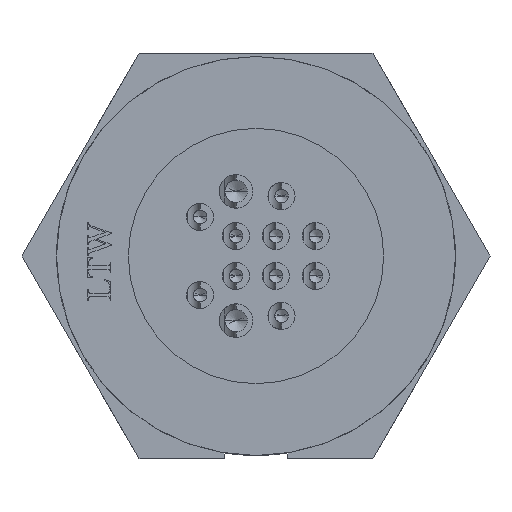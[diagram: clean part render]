
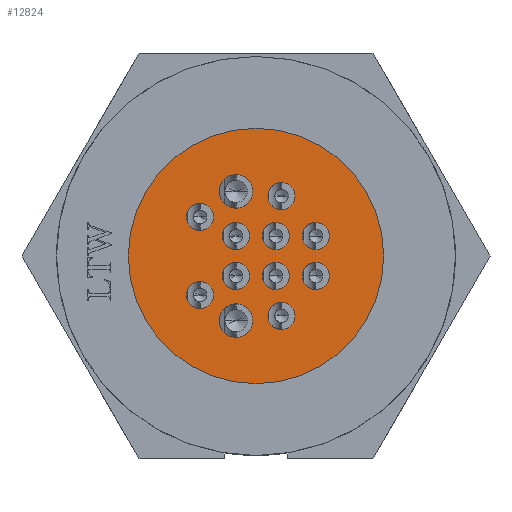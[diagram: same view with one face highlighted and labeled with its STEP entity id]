
A CAD part, left-side view. The second image highlights one B-rep face of the part: STEP entity #12824.
In plain terms, the highlighted planar face has unit normal (-1, 0, 0).
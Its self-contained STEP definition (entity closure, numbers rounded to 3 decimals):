
#2467=CARTESIAN_POINT('',(0.,0.,0.));
#2468=DIRECTION('',(1.,0.,0.));
#2469=DIRECTION('',(0.,-1.,0.));
#2470=AXIS2_PLACEMENT_3D('',#2467,#2468,#2469);
#2472=CARTESIAN_POINT('',(0.,0.,0.));
#2473=DIRECTION('',(1.,0.,0.));
#2474=DIRECTION('',(0.,1.,0.));
#2475=AXIS2_PLACEMENT_3D('',#2472,#2473,#2474);
#2477=CARTESIAN_POINT('',(0.,1.25,4.05));
#2478=DIRECTION('',(-1.,0.,0.));
#2479=DIRECTION('',(0.,1.,0.));
#2480=AXIS2_PLACEMENT_3D('',#2477,#2478,#2479);
#2482=CARTESIAN_POINT('',(0.,1.25,4.05));
#2483=DIRECTION('',(-1.,0.,0.));
#2484=DIRECTION('',(0.,-1.,0.));
#2485=AXIS2_PLACEMENT_3D('',#2482,#2483,#2484);
#2487=CARTESIAN_POINT('',(0.,1.25,-4.05));
#2488=DIRECTION('',(-1.,0.,0.));
#2489=DIRECTION('',(0.,1.,0.));
#2490=AXIS2_PLACEMENT_3D('',#2487,#2488,#2489);
#2492=CARTESIAN_POINT('',(0.,1.25,-4.05));
#2493=DIRECTION('',(-1.,0.,0.));
#2494=DIRECTION('',(0.,-1.,0.));
#2495=AXIS2_PLACEMENT_3D('',#2492,#2493,#2494);
#2497=CARTESIAN_POINT('',(0.,3.5,2.45));
#2498=DIRECTION('',(-1.,0.,0.));
#2499=DIRECTION('',(0.,1.,0.));
#2500=AXIS2_PLACEMENT_3D('',#2497,#2498,#2499);
#2502=CARTESIAN_POINT('',(0.,3.5,2.45));
#2503=DIRECTION('',(-1.,0.,0.));
#2504=DIRECTION('',(0.,-1.,0.));
#2505=AXIS2_PLACEMENT_3D('',#2502,#2503,#2504);
#2507=CARTESIAN_POINT('',(0.,3.5,-2.45));
#2508=DIRECTION('',(-1.,0.,0.));
#2509=DIRECTION('',(0.,1.,0.));
#2510=AXIS2_PLACEMENT_3D('',#2507,#2508,#2509);
#2512=CARTESIAN_POINT('',(0.,3.5,-2.45));
#2513=DIRECTION('',(-1.,0.,0.));
#2514=DIRECTION('',(0.,-1.,0.));
#2515=AXIS2_PLACEMENT_3D('',#2512,#2513,#2514);
#2517=CARTESIAN_POINT('',(0.,1.25,1.25));
#2518=DIRECTION('',(-1.,0.,0.));
#2519=DIRECTION('',(0.,1.,0.));
#2520=AXIS2_PLACEMENT_3D('',#2517,#2518,#2519);
#2522=CARTESIAN_POINT('',(0.,1.25,1.25));
#2523=DIRECTION('',(-1.,0.,0.));
#2524=DIRECTION('',(0.,-1.,0.));
#2525=AXIS2_PLACEMENT_3D('',#2522,#2523,#2524);
#2527=CARTESIAN_POINT('',(0.,1.25,-1.25));
#2528=DIRECTION('',(-1.,0.,0.));
#2529=DIRECTION('',(0.,1.,0.));
#2530=AXIS2_PLACEMENT_3D('',#2527,#2528,#2529);
#2532=CARTESIAN_POINT('',(0.,1.25,-1.25));
#2533=DIRECTION('',(-1.,0.,0.));
#2534=DIRECTION('',(0.,-1.,0.));
#2535=AXIS2_PLACEMENT_3D('',#2532,#2533,#2534);
#2537=CARTESIAN_POINT('',(0.,-1.25,1.25));
#2538=DIRECTION('',(-1.,0.,0.));
#2539=DIRECTION('',(0.,1.,0.));
#2540=AXIS2_PLACEMENT_3D('',#2537,#2538,#2539);
#2542=CARTESIAN_POINT('',(0.,-1.25,1.25));
#2543=DIRECTION('',(-1.,0.,0.));
#2544=DIRECTION('',(0.,-1.,0.));
#2545=AXIS2_PLACEMENT_3D('',#2542,#2543,#2544);
#2547=CARTESIAN_POINT('',(0.,-1.25,-1.25));
#2548=DIRECTION('',(-1.,0.,0.));
#2549=DIRECTION('',(0.,1.,0.));
#2550=AXIS2_PLACEMENT_3D('',#2547,#2548,#2549);
#2552=CARTESIAN_POINT('',(0.,-1.25,-1.25));
#2553=DIRECTION('',(-1.,0.,0.));
#2554=DIRECTION('',(0.,-1.,0.));
#2555=AXIS2_PLACEMENT_3D('',#2552,#2553,#2554);
#2557=CARTESIAN_POINT('',(0.,-3.75,1.25));
#2558=DIRECTION('',(-1.,0.,0.));
#2559=DIRECTION('',(0.,1.,0.));
#2560=AXIS2_PLACEMENT_3D('',#2557,#2558,#2559);
#2562=CARTESIAN_POINT('',(0.,-3.75,1.25));
#2563=DIRECTION('',(-1.,0.,0.));
#2564=DIRECTION('',(0.,-1.,0.));
#2565=AXIS2_PLACEMENT_3D('',#2562,#2563,#2564);
#2567=CARTESIAN_POINT('',(0.,-3.75,-1.25));
#2568=DIRECTION('',(-1.,0.,0.));
#2569=DIRECTION('',(0.,1.,0.));
#2570=AXIS2_PLACEMENT_3D('',#2567,#2568,#2569);
#2572=CARTESIAN_POINT('',(0.,-3.75,-1.25));
#2573=DIRECTION('',(-1.,0.,0.));
#2574=DIRECTION('',(0.,-1.,0.));
#2575=AXIS2_PLACEMENT_3D('',#2572,#2573,#2574);
#2577=CARTESIAN_POINT('',(0.,-1.6,3.75));
#2578=DIRECTION('',(-1.,0.,0.));
#2579=DIRECTION('',(0.,1.,0.));
#2580=AXIS2_PLACEMENT_3D('',#2577,#2578,#2579);
#2582=CARTESIAN_POINT('',(0.,-1.6,3.75));
#2583=DIRECTION('',(-1.,0.,0.));
#2584=DIRECTION('',(0.,-1.,0.));
#2585=AXIS2_PLACEMENT_3D('',#2582,#2583,#2584);
#2587=CARTESIAN_POINT('',(0.,-1.6,-3.75));
#2588=DIRECTION('',(-1.,0.,0.));
#2589=DIRECTION('',(0.,1.,0.));
#2590=AXIS2_PLACEMENT_3D('',#2587,#2588,#2589);
#2592=CARTESIAN_POINT('',(0.,-1.6,-3.75));
#2593=DIRECTION('',(-1.,0.,0.));
#2594=DIRECTION('',(0.,-1.,0.));
#2595=AXIS2_PLACEMENT_3D('',#2592,#2593,#2594);
#9667=CARTESIAN_POINT('',(0.,8.,0.));
#9668=VERTEX_POINT('',#9667);
#9669=CARTESIAN_POINT('',(0.,-8.,0.));
#9670=VERTEX_POINT('',#9669);
#9889=CARTESIAN_POINT('',(0.,2.3,4.05));
#9890=CARTESIAN_POINT('',(0.,0.2,4.05));
#9891=VERTEX_POINT('',#9889);
#9892=VERTEX_POINT('',#9890);
#9893=CARTESIAN_POINT('',(0.,2.3,-4.05));
#9894=CARTESIAN_POINT('',(0.,0.2,-4.05));
#9895=VERTEX_POINT('',#9893);
#9896=VERTEX_POINT('',#9894);
#9897=CARTESIAN_POINT('',(0.,4.35,2.45));
#9898=CARTESIAN_POINT('',(0.,2.65,2.45));
#9899=VERTEX_POINT('',#9897);
#9900=VERTEX_POINT('',#9898);
#9901=CARTESIAN_POINT('',(0.,4.35,-2.45));
#9902=CARTESIAN_POINT('',(0.,2.65,-2.45));
#9903=VERTEX_POINT('',#9901);
#9904=VERTEX_POINT('',#9902);
#9905=CARTESIAN_POINT('',(0.,2.1,1.25));
#9906=CARTESIAN_POINT('',(0.,0.4,1.25));
#9907=VERTEX_POINT('',#9905);
#9908=VERTEX_POINT('',#9906);
#9909=CARTESIAN_POINT('',(0.,2.1,-1.25));
#9910=CARTESIAN_POINT('',(0.,0.4,-1.25));
#9911=VERTEX_POINT('',#9909);
#9912=VERTEX_POINT('',#9910);
#9913=CARTESIAN_POINT('',(0.,-0.4,1.25));
#9914=CARTESIAN_POINT('',(0.,-2.1,1.25));
#9915=VERTEX_POINT('',#9913);
#9916=VERTEX_POINT('',#9914);
#9917=CARTESIAN_POINT('',(0.,-0.4,-1.25));
#9918=CARTESIAN_POINT('',(0.,-2.1,-1.25));
#9919=VERTEX_POINT('',#9917);
#9920=VERTEX_POINT('',#9918);
#9921=CARTESIAN_POINT('',(0.,-2.9,1.25));
#9922=CARTESIAN_POINT('',(0.,-4.6,1.25));
#9923=VERTEX_POINT('',#9921);
#9924=VERTEX_POINT('',#9922);
#9925=CARTESIAN_POINT('',(0.,-2.9,-1.25));
#9926=CARTESIAN_POINT('',(0.,-4.6,-1.25));
#9927=VERTEX_POINT('',#9925);
#9928=VERTEX_POINT('',#9926);
#9929=CARTESIAN_POINT('',(0.,-0.75,3.75));
#9930=CARTESIAN_POINT('',(0.,-2.45,3.75));
#9931=VERTEX_POINT('',#9929);
#9932=VERTEX_POINT('',#9930);
#9933=CARTESIAN_POINT('',(0.,-0.75,-3.75));
#9934=CARTESIAN_POINT('',(0.,-2.45,-3.75));
#9935=VERTEX_POINT('',#9933);
#9936=VERTEX_POINT('',#9934);
#12743=CARTESIAN_POINT('',(0.,0.,0.));
#12744=DIRECTION('',(1.,0.,0.));
#12745=DIRECTION('',(0.,-1.,0.));
#12746=AXIS2_PLACEMENT_3D('',#12743,#12744,#12745);
#12747=PLANE('',#12746);
#12748=ORIENTED_EDGE('',*,*,#12708,.T.);
#12749=ORIENTED_EDGE('',*,*,#12731,.T.);
#12750=EDGE_LOOP('',(#12748,#12749));
#12751=FACE_OUTER_BOUND('',#12750,.F.);
#12753=ORIENTED_EDGE('',*,*,#12752,.T.);
#12755=ORIENTED_EDGE('',*,*,#12754,.T.);
#12756=EDGE_LOOP('',(#12753,#12755));
#12757=FACE_BOUND('',#12756,.F.);
#12759=ORIENTED_EDGE('',*,*,#12758,.T.);
#12761=ORIENTED_EDGE('',*,*,#12760,.T.);
#12762=EDGE_LOOP('',(#12759,#12761));
#12763=FACE_BOUND('',#12762,.F.);
#12765=ORIENTED_EDGE('',*,*,#12764,.T.);
#12767=ORIENTED_EDGE('',*,*,#12766,.T.);
#12768=EDGE_LOOP('',(#12765,#12767));
#12769=FACE_BOUND('',#12768,.F.);
#12771=ORIENTED_EDGE('',*,*,#12770,.T.);
#12773=ORIENTED_EDGE('',*,*,#12772,.T.);
#12774=EDGE_LOOP('',(#12771,#12773));
#12775=FACE_BOUND('',#12774,.F.);
#12777=ORIENTED_EDGE('',*,*,#12776,.T.);
#12779=ORIENTED_EDGE('',*,*,#12778,.T.);
#12780=EDGE_LOOP('',(#12777,#12779));
#12781=FACE_BOUND('',#12780,.F.);
#12783=ORIENTED_EDGE('',*,*,#12782,.T.);
#12785=ORIENTED_EDGE('',*,*,#12784,.T.);
#12786=EDGE_LOOP('',(#12783,#12785));
#12787=FACE_BOUND('',#12786,.F.);
#12789=ORIENTED_EDGE('',*,*,#12788,.T.);
#12791=ORIENTED_EDGE('',*,*,#12790,.T.);
#12792=EDGE_LOOP('',(#12789,#12791));
#12793=FACE_BOUND('',#12792,.F.);
#12795=ORIENTED_EDGE('',*,*,#12794,.T.);
#12797=ORIENTED_EDGE('',*,*,#12796,.T.);
#12798=EDGE_LOOP('',(#12795,#12797));
#12799=FACE_BOUND('',#12798,.F.);
#12801=ORIENTED_EDGE('',*,*,#12800,.T.);
#12803=ORIENTED_EDGE('',*,*,#12802,.T.);
#12804=EDGE_LOOP('',(#12801,#12803));
#12805=FACE_BOUND('',#12804,.F.);
#12807=ORIENTED_EDGE('',*,*,#12806,.T.);
#12809=ORIENTED_EDGE('',*,*,#12808,.T.);
#12810=EDGE_LOOP('',(#12807,#12809));
#12811=FACE_BOUND('',#12810,.F.);
#12813=ORIENTED_EDGE('',*,*,#12812,.T.);
#12815=ORIENTED_EDGE('',*,*,#12814,.T.);
#12816=EDGE_LOOP('',(#12813,#12815));
#12817=FACE_BOUND('',#12816,.F.);
#12819=ORIENTED_EDGE('',*,*,#12818,.T.);
#12821=ORIENTED_EDGE('',*,*,#12820,.T.);
#12822=EDGE_LOOP('',(#12819,#12821));
#12823=FACE_BOUND('',#12822,.F.);
#12824=ADVANCED_FACE('',(#12751,#12757,#12763,#12769,#12775,#12781,#12787,
#12793,#12799,#12805,#12811,#12817,#12823),#12747,.F.);
#2471=CIRCLE('',#2470,8.);
#2476=CIRCLE('',#2475,8.);
#2481=CIRCLE('',#2480,1.05);
#2486=CIRCLE('',#2485,1.05);
#2491=CIRCLE('',#2490,1.05);
#2496=CIRCLE('',#2495,1.05);
#2501=CIRCLE('',#2500,0.85);
#2506=CIRCLE('',#2505,0.85);
#2511=CIRCLE('',#2510,0.85);
#2516=CIRCLE('',#2515,0.85);
#2521=CIRCLE('',#2520,0.85);
#2526=CIRCLE('',#2525,0.85);
#2531=CIRCLE('',#2530,0.85);
#2536=CIRCLE('',#2535,0.85);
#2541=CIRCLE('',#2540,0.85);
#2546=CIRCLE('',#2545,0.85);
#2551=CIRCLE('',#2550,0.85);
#2556=CIRCLE('',#2555,0.85);
#2561=CIRCLE('',#2560,0.85);
#2566=CIRCLE('',#2565,0.85);
#2571=CIRCLE('',#2570,0.85);
#2576=CIRCLE('',#2575,0.85);
#2581=CIRCLE('',#2580,0.85);
#2586=CIRCLE('',#2585,0.85);
#2591=CIRCLE('',#2590,0.85);
#2596=CIRCLE('',#2595,0.85);
#12708=EDGE_CURVE('',#9670,#9668,#2471,.T.);
#12731=EDGE_CURVE('',#9668,#9670,#2476,.T.);
#12752=EDGE_CURVE('',#9891,#9892,#2481,.T.);
#12754=EDGE_CURVE('',#9892,#9891,#2486,.T.);
#12758=EDGE_CURVE('',#9895,#9896,#2491,.T.);
#12760=EDGE_CURVE('',#9896,#9895,#2496,.T.);
#12764=EDGE_CURVE('',#9899,#9900,#2501,.T.);
#12766=EDGE_CURVE('',#9900,#9899,#2506,.T.);
#12770=EDGE_CURVE('',#9903,#9904,#2511,.T.);
#12772=EDGE_CURVE('',#9904,#9903,#2516,.T.);
#12776=EDGE_CURVE('',#9907,#9908,#2521,.T.);
#12778=EDGE_CURVE('',#9908,#9907,#2526,.T.);
#12782=EDGE_CURVE('',#9911,#9912,#2531,.T.);
#12784=EDGE_CURVE('',#9912,#9911,#2536,.T.);
#12788=EDGE_CURVE('',#9915,#9916,#2541,.T.);
#12790=EDGE_CURVE('',#9916,#9915,#2546,.T.);
#12794=EDGE_CURVE('',#9919,#9920,#2551,.T.);
#12796=EDGE_CURVE('',#9920,#9919,#2556,.T.);
#12800=EDGE_CURVE('',#9923,#9924,#2561,.T.);
#12802=EDGE_CURVE('',#9924,#9923,#2566,.T.);
#12806=EDGE_CURVE('',#9927,#9928,#2571,.T.);
#12808=EDGE_CURVE('',#9928,#9927,#2576,.T.);
#12812=EDGE_CURVE('',#9931,#9932,#2581,.T.);
#12814=EDGE_CURVE('',#9932,#9931,#2586,.T.);
#12818=EDGE_CURVE('',#9935,#9936,#2591,.T.);
#12820=EDGE_CURVE('',#9936,#9935,#2596,.T.);
